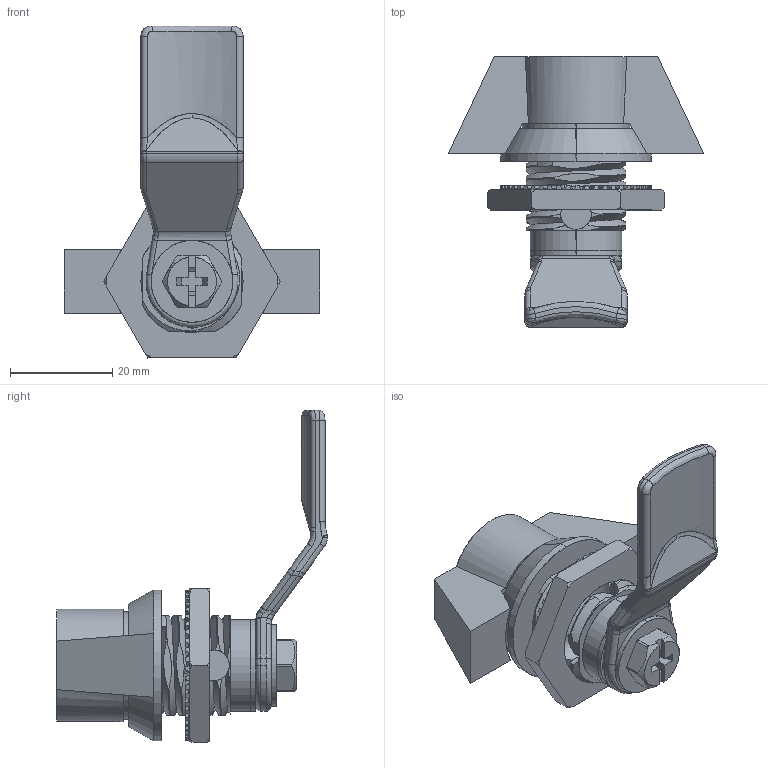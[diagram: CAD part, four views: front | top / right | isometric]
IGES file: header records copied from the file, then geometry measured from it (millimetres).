
Start section: SolidWorks IGES file using analytic representation for surfaces
Global section: file name: D:\尚坤工业图纸\SK1--门锁系列\SK1-0815\SK1-0815-1.IGS; native system: SolidWorks 2015; preprocessor: SolidWorks 2015; author: admin; date: 181101.112143; units: millimetre
Bounding box: 50 x 53 x 65 mm (x, y, z)
Surface area: 12232.8 mm2 (no closed solid volume)
Topology: 0 solids, 0 shells, 676 faces, 5562 edges, 5560 vertices
Faces by surface type: bspline 439, revolution 237
